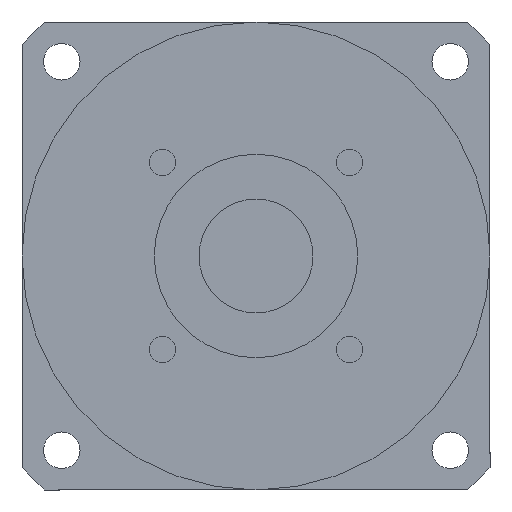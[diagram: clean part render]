
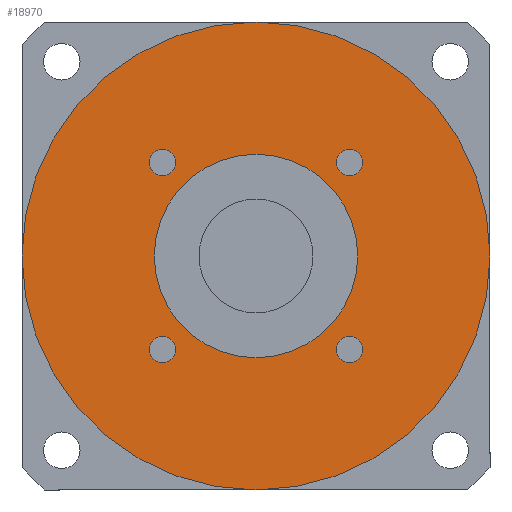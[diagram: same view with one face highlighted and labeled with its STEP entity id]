
A CAD part, left-side view. The second image highlights one B-rep face of the part: STEP entity #18970.
In plain terms, the highlighted planar face has unit normal (-1, 0, 0) as drawn and (0, 0, -1) by its records, which use the part's own axes.
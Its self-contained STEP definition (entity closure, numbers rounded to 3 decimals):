
#15820=CARTESIAN_POINT('',(22.981,-19.731,-120.));
#15830=VERTEX_POINT('',#15820);
#16010=CARTESIAN_POINT('',(22.981,-26.231,-120.));
#16020=VERTEX_POINT('',#16010);
#16050=CARTESIAN_POINT('',(22.981,-22.981,-120.));
#16060=DIRECTION('',(0.,0.,-1.));
#16070=DIRECTION('',(1.,0.,0.));
#16080=AXIS2_PLACEMENT_3D('',#16050,#16060,#16070);
#16090=CIRCLE('',#16080,3.25);
#16100=CARTESIAN_POINT('',(26.231,-22.981,-120.));
#16110=VERTEX_POINT('',#16100);
#16120=EDGE_CURVE('',#16110,#16020,#16090,.T.);
#16140=EDGE_CURVE('',#15830,#16110,#16090,.T.);
#16240=CARTESIAN_POINT('',(0.,0.,
-120.));
#16250=DIRECTION('',(0.,0.,1.));
#16260=DIRECTION('',(0.,-1.,0.));
#16270=AXIS2_PLACEMENT_3D('',#16240,#16250,#16260);
#16280=CIRCLE('',#16270,25.);
#16290=CARTESIAN_POINT('',(0.,-25.,-120.));
#16300=VERTEX_POINT('',#16290);
#16310=CARTESIAN_POINT('',(25.,0.,-120.));
#16320=VERTEX_POINT('',#16310);
#16330=EDGE_CURVE('',#16300,#16320,#16280,.T.);
#16600=CARTESIAN_POINT('',(-25.,0.,-120.));
#16610=VERTEX_POINT('',#16600);
#16640=EDGE_CURVE('',#16610,#16300,#16280,.T.);
#17900=CARTESIAN_POINT('',(57.5,0.,-120.));
#17910=VERTEX_POINT('',#17900);
#17940=CARTESIAN_POINT('',(0.,0.,
-120.));
#17950=DIRECTION('',(0.,0.,1.));
#17960=DIRECTION('',(0.,-1.,0.));
#17970=AXIS2_PLACEMENT_3D('',#17940,#17950,#17960);
#17980=CIRCLE('',#17970,57.5);
#17990=CARTESIAN_POINT('',(0.,-57.5,-120.));
#18000=VERTEX_POINT('',#17990);
#18010=EDGE_CURVE('',#18000,#17910,#17980,.T.);
#18030=CARTESIAN_POINT('',(-57.5,0.,-120.));
#18040=VERTEX_POINT('',#18030);
#18050=EDGE_CURVE('',#18040,#18000,#17980,.T.);
#18170=CARTESIAN_POINT('',(0.,0.,
-120.));
#18180=DIRECTION('',(0.,0.,1.));
#18190=DIRECTION('',(-1.,0.,0.));
#18200=AXIS2_PLACEMENT_3D('',#18170,#18180,#18190);
#18210=PLANE('',#18200);
#18220=CARTESIAN_POINT('',(22.981,22.981,-120.));
#18230=DIRECTION('',(0.,0.,-1.));
#18240=DIRECTION('',(0.,1.,0.));
#18250=AXIS2_PLACEMENT_3D('',#18220,#18230,#18240);
#18260=CIRCLE('',#18250,3.25);
#18270=CARTESIAN_POINT('',(22.981,26.231,-120.));
#18280=VERTEX_POINT('',#18270);
#18290=CARTESIAN_POINT('',(26.231,22.981,-120.));
#18300=VERTEX_POINT('',#18290);
#18310=EDGE_CURVE('',#18280,#18300,#18260,.T.);
#18320=ORIENTED_EDGE('',*,*,#18310,.F.);
#18330=CARTESIAN_POINT('',(19.731,22.981,-120.));
#18340=VERTEX_POINT('',#18330);
#18350=EDGE_CURVE('',#18300,#18340,#18260,.T.);
#18360=ORIENTED_EDGE('',*,*,#18350,.F.);
#18370=EDGE_CURVE('',#18340,#18280,#18260,.T.);
#18380=ORIENTED_EDGE('',*,*,#18370,.F.);
#18390=EDGE_LOOP('',(#18380,#18360,#18320));
#18400=FACE_BOUND('',#18390,.T.);
#18410=CARTESIAN_POINT('',(-22.981,22.981,-120.));
#18420=DIRECTION('',(0.,0.,-1.));
#18430=DIRECTION('',(-1.,0.,0.));
#18440=AXIS2_PLACEMENT_3D('',#18410,#18420,#18430);
#18450=CIRCLE('',#18440,3.25);
#18460=CARTESIAN_POINT('',(-26.231,22.981,-120.));
#18470=VERTEX_POINT('',#18460);
#18480=CARTESIAN_POINT('',(-22.981,26.231,-120.));
#18490=VERTEX_POINT('',#18480);
#18500=EDGE_CURVE('',#18470,#18490,#18450,.T.);
#18510=ORIENTED_EDGE('',*,*,#18500,.F.);
#18520=CARTESIAN_POINT('',(-22.981,19.731,-120.));
#18530=VERTEX_POINT('',#18520);
#18540=EDGE_CURVE('',#18490,#18530,#18450,.T.);
#18550=ORIENTED_EDGE('',*,*,#18540,.F.);
#18560=EDGE_CURVE('',#18530,#18470,#18450,.T.);
#18570=ORIENTED_EDGE('',*,*,#18560,.F.);
#18580=EDGE_LOOP('',(#18570,#18550,#18510));
#18590=FACE_BOUND('',#18580,.T.);
#18600=CARTESIAN_POINT('',(-22.981,-22.981,-120.));
#18610=DIRECTION('',(0.,0.,-1.));
#18620=DIRECTION('',(0.,-1.,0.));
#18630=AXIS2_PLACEMENT_3D('',#18600,#18610,#18620);
#18640=CIRCLE('',#18630,3.25);
#18650=CARTESIAN_POINT('',(-22.981,-26.231,-120.));
#18660=VERTEX_POINT('',#18650);
#18670=CARTESIAN_POINT('',(-26.231,-22.981,-120.));
#18680=VERTEX_POINT('',#18670);
#18690=EDGE_CURVE('',#18660,#18680,#18640,.T.);
#18700=ORIENTED_EDGE('',*,*,#18690,.F.);
#18710=CARTESIAN_POINT('',(-19.731,-22.981,-120.));
#18720=VERTEX_POINT('',#18710);
#18730=EDGE_CURVE('',#18680,#18720,#18640,.T.);
#18740=ORIENTED_EDGE('',*,*,#18730,.F.);
#18750=EDGE_CURVE('',#18720,#18660,#18640,.T.);
#18760=ORIENTED_EDGE('',*,*,#18750,.F.);
#18770=EDGE_LOOP('',(#18760,#18740,#18700));
#18780=FACE_BOUND('',#18770,.T.);
#18790=EDGE_CURVE('',#16320,#16610,#16280,.T.);
#18800=ORIENTED_EDGE('',*,*,#18790,.T.);
#18810=ORIENTED_EDGE('',*,*,#16330,.T.);
#18820=ORIENTED_EDGE('',*,*,#16640,.T.);
#18830=EDGE_LOOP('',(#18820,#18810,#18800));
#18840=FACE_BOUND('',#18830,.T.);
#18850=ORIENTED_EDGE('',*,*,#16120,.F.);
#18860=EDGE_CURVE('',#16020,#15830,#16090,.T.);
#18870=ORIENTED_EDGE('',*,*,#18860,.F.);
#18880=ORIENTED_EDGE('',*,*,#16140,.F.);
#18890=EDGE_LOOP('',(#18880,#18870,#18850));
#18900=FACE_BOUND('',#18890,.T.);
#18910=ORIENTED_EDGE('',*,*,#18010,.F.);
#18920=EDGE_CURVE('',#17910,#18040,#17980,.T.);
#18930=ORIENTED_EDGE('',*,*,#18920,.F.);
#18940=ORIENTED_EDGE('',*,*,#18050,.F.);
#18950=EDGE_LOOP('',(#18940,#18930,#18910));
#18960=FACE_OUTER_BOUND('',#18950,.T.);
#18970=ADVANCED_FACE('',(#18400,#18590,#18780,#18840,#18900,#18960),
#18210,.F.);
